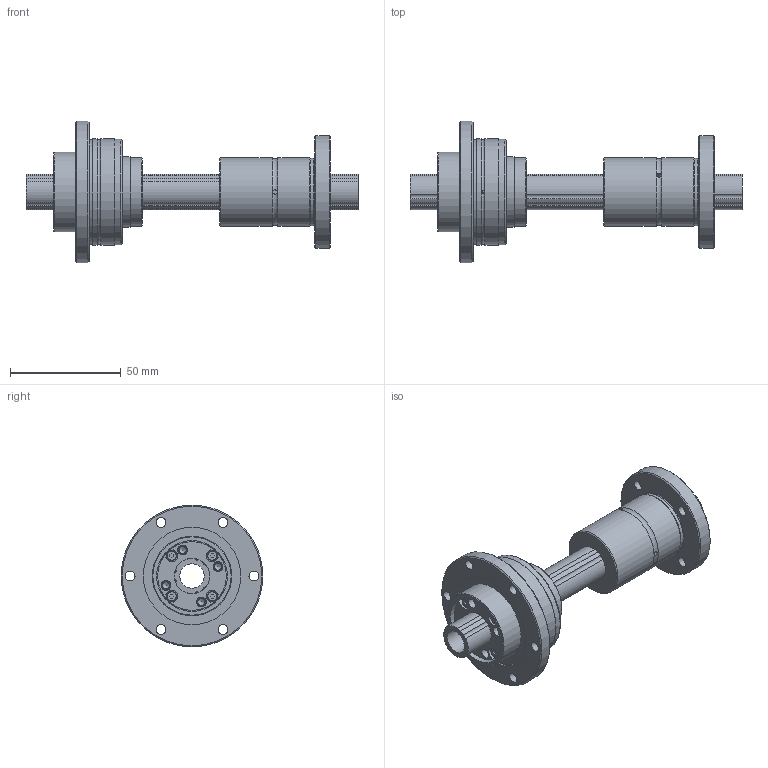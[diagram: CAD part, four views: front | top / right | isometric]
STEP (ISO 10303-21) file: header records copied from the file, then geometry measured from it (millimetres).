
FILE_DESCRIPTION(/* description */ ('STEP AP203'),/* implementation_level */ '2;1');
FILE_NAME(/* name */ 'NS1616A+150L',/* time_stamp */ '2025-06-11T08:45:31+02:00',/* author */ ('License CC BY-ND 4.0'),/* organization */ ('CADENAS'),/* preprocessor_version */ 'ST-DEVELOPER v19.3',/* originating_system */ 'PARTsolutions',/* authorisation */ ' ');
FILE_SCHEMA (('CONFIG_CONTROL_DESIGN'));
Length unit declared in the file: millimetre
Products named in the file (4): NS1616A+150L; NS 1616A+150L Shaft; NS 1616ASpline_b; NS 1616ASpline
Assembly tree (3 placements, depth 2):
  NS1616A+150L
    NS 1616A+150L Shaft
    NS 1616ASpline_b
    NS 1616ASpline
Bounding box: 150 x 64 x 64 mm (x, y, z)
Volume: 101977.3 mm3; surface area: 41241.4 mm2
Topology: 3 solids, 3 shells, 170 faces, 378 edges, 246 vertices
Faces by surface type: plane 80, cylinder 66, cone 14, torus 10
Full cylindrical faces by diameter (mm): 1.2 x1, 2 x3, 3.242 x4, 4.5 x18, 8 x4, 11 x1, 16 x2, 30.4 x1, 31 x4, 32 x2, 36 x2, 44 x2, 47.4 x1, 47.5 x1, 48 x2, 51 x1, 64 x1
Entity records: 4430 total; most frequent: DIRECTION 780, CARTESIAN_POINT 763, ORIENTED_EDGE 576, AXIS2_PLACEMENT_3D 332, FACE_BOUND 306, EDGE_LOOP 302, EDGE_CURVE 288, VERTEX_POINT 234
